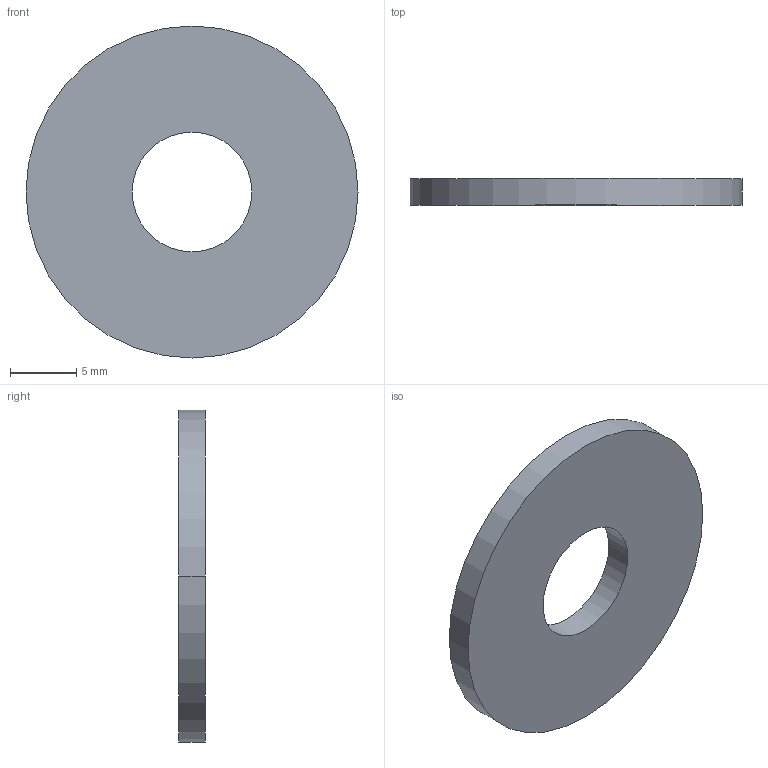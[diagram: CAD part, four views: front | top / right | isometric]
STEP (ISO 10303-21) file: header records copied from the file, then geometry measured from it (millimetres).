
FILE_DESCRIPTION((''),'2;1');
FILE_NAME('SCHEIBE_B_8-4_DIN_9021_ST','2022-06-13T16:16:12',('H041970'),(''),'CREO PARAMETRIC BY PTC INC, 2021284','CREO PARAMETRIC BY PTC INC, 2021284','');
FILE_SCHEMA(('CONFIG_CONTROL_DESIGN'));
Length unit declared in the file: millimetre
Products named in the file (1): SCHEIBE_B_8-4_DIN_9021_ST
Bounding box: 25 x 2 x 25 mm (x, y, z)
Volume: 854.5 mm3; surface area: 1068.1 mm2
Topology: 1 solids, 1 shells, 6 faces, 15 edges, 14 vertices
Faces by surface type: cylinder 4, plane 2
Entity records: 230 total; most frequent: DIRECTION 37, CARTESIAN_POINT 30, ORIENTED_EDGE 24, AXIS2_PLACEMENT_3D 15, EDGE_CURVE 12, VERTEX_POINT 8, EDGE_LOOP 8, CIRCLE 8
